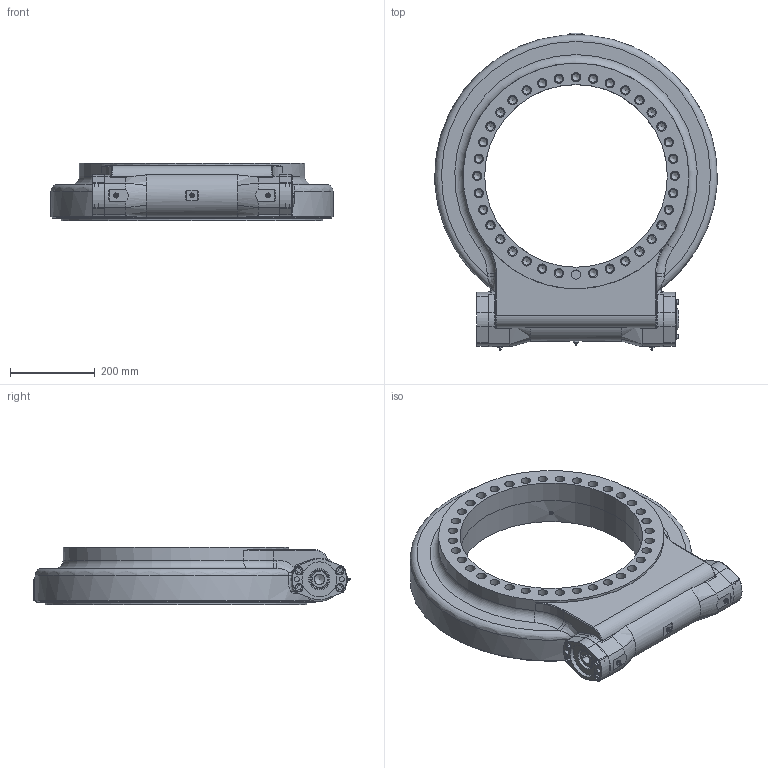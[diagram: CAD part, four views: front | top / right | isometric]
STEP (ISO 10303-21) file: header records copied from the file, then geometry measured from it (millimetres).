
FILE_DESCRIPTION (( 'STEP AP214' ), '1' );
FILE_NAME ('FGE21-125M-25H-R-REV.A.STEP', '2022-09-02T05:52:29', ( '' ), ( '' ), 'SwSTEP 2.0', 'SolidWorks 2018', '' );
FILE_SCHEMA (( 'AUTOMOTIVE_DESIGN' ));
Length unit declared in the file: millimetre
Products named in the file (1): FGE21-125M-25H-R-REV.A
Bounding box: 667.87 x 749.89 x 136.5 mm (x, y, z)
Volume: 18060088.8 mm3; surface area: 2504124.4 mm2
Topology: 19 solids, 19 shells, 874 faces, 2012 edges, 1289 vertices
Faces by surface type: plane 351, cylinder 309, cone 128, torus 57, bspline 26, sphere 3
Full cylindrical faces by diameter (mm): 5 x3, 6 x2, 7 x5, 8 x3, 8.5 x4, 9 x2, 9.093 x1, 10 x16, 10.2 x8, 11.5 x4, 12 x10, 13 x8, 16 x4, 17 x4, 17.5 x71, 18 x8, 19 x1, 19.5 x8, 22 x36, 24 x1, 25.4 x1, 35 x1, 40 x4, 41.908 x2, 47 x2, 50 x4, 57 x1, 66 x2, 68.5 x2, 75 x2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
Entity records: 34679 total; most frequent: CARTESIAN_POINT 7308, DIRECTION 3741, ORIENTED_EDGE 2848, AXIS2_PLACEMENT_3D 1594, EDGE_LOOP 1523, EDGE_CURVE 1424, FACE_OUTER_BOUND 1170, VERTEX_POINT 1125
